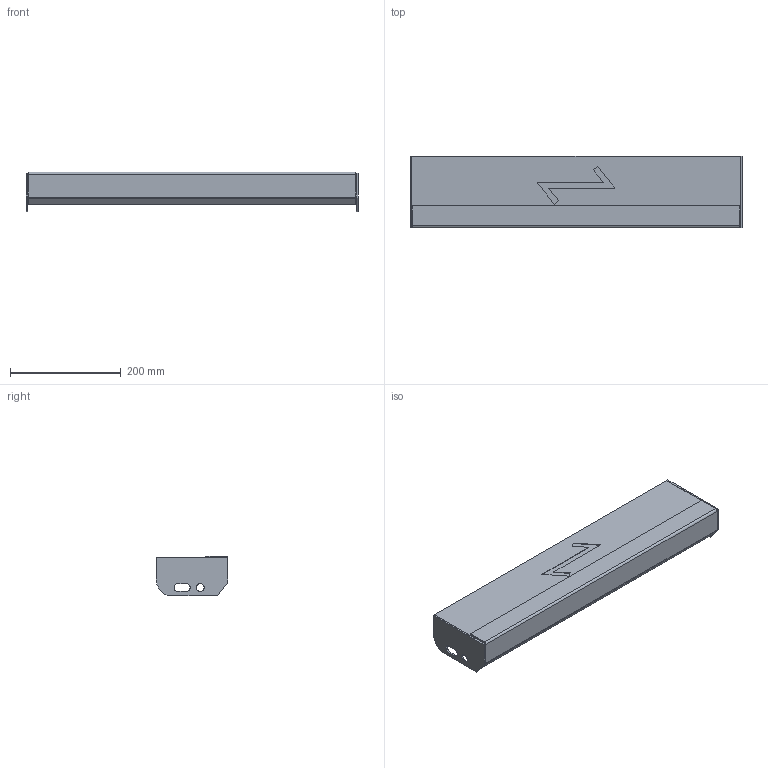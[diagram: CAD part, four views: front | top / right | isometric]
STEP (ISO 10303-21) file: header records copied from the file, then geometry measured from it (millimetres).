
FILE_DESCRIPTION (( 'STEP AP203' ), '1' );
FILE_NAME ('StegTH6-S-nya_steget-600x130.STEP', '2020-03-04T07:41:12', ( '' ), ( '' ), 'SwSTEP 2.0', 'SolidWorks 2019', '' );
FILE_SCHEMA (( 'CONFIG_CONTROL_DESIGN' ));
Length unit declared in the file: millimetre
Products named in the file (5): SW0000038729; StegTH6-S-nya_steget-600x130; SW0000039239; SW0000038694; SW0000039395
Assembly tree (5 placements, depth 3):
  StegTH6-S-nya_steget-600x130
    SW0000039395
      SW0000038729
      SW0000039239
      SW0000038694  x2
Bounding box: 600 x 130 x 72 mm (x, y, z)
Volume: 1422437.4 mm3; surface area: 308901.8 mm2
Topology: 4 solids, 4 shells, 67 faces, 158 edges, 100 vertices
Faces by surface type: plane 51, cylinder 16
Entity records: 2002 total; most frequent: DIRECTION 261, CARTESIAN_POINT 254, ORIENTED_EDGE 238, EDGE_CURVE 119, VECTOR 99, LINE 99, AXIS2_PLACEMENT_3D 81, VERTEX_POINT 74
